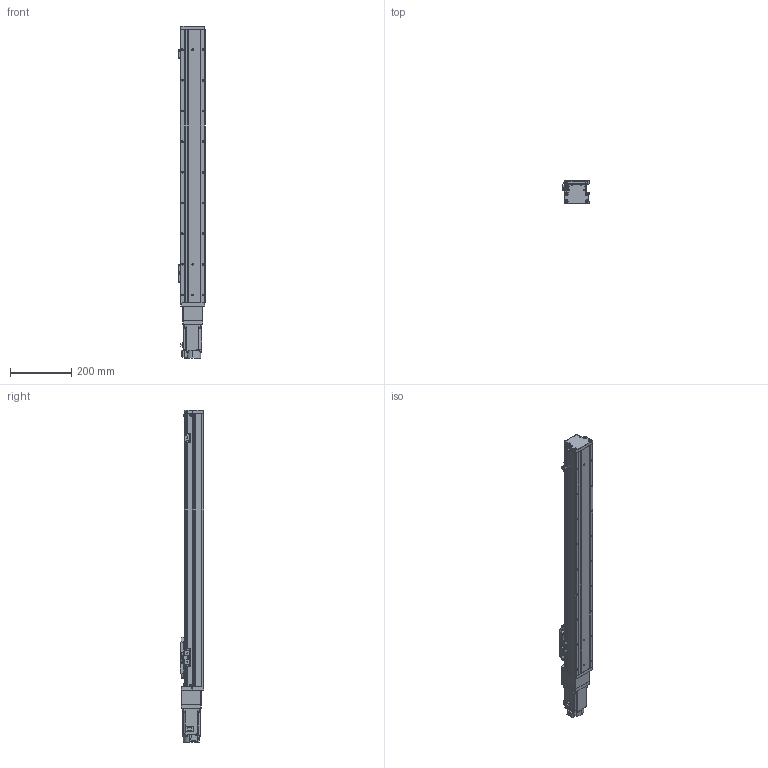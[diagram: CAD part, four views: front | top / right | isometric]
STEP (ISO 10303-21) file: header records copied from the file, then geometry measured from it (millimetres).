
FILE_DESCRIPTION (( 'STEP AP203' ), '1' );
FILE_NAME ('GTH8-700-BC-M20-C4.step', '2022-09-23T00:55:54', ( '微软用户' ), ( '微软中国' ), 'SwSTEP 2.0', 'SolidWorks 2020', '' );
FILE_SCHEMA (( 'CONFIG_CONTROL_DESIGN' ));
Length unit declared in the file: millimetre
Products named in the file (19): GBT 70.3-M3℅6; GBT96.1-2002 3×0.8; GTH80-022; BTH-M3X5X6; GTH80-001_700; GBT 70.1-M3℅6; CTHA86-006-1_CTHA86-006-2; GTH80-003; GBT 70.1-M4×16; CTHA86-013; GTH80-004; GTH80-028; CTHA86-027; GTH80-006; GTH50-024; hg-kn43j_-s100_; GTH80-013; GTH8-700-BC-M20-C4; GTH50-023
Assembly tree (60 placements, depth 2):
  GTH8-700-BC-M20-C4
    GTH80-001_700
    GTH80-003
    GTH80-004
    GTH80-006
    GTH80-013
    GBT 70.3-M3℅6  x6
    GTH80-022
    GBT 70.1-M3℅6  x14
    GBT 70.1-M4×16  x8
    GTH80-028  x2
    GTH50-024  x3
    GTH50-023  x3
    GBT96.1-2002 3×0.8  x6
    BTH-M3X5X6  x8
    CTHA86-006-1_CTHA86-006-2
    CTHA86-013
    CTHA86-027
    hg-kn43j_-s100_
Bounding box: 86.9 x 78 x 1082.7 mm (x, y, z)
Volume: 4662519.3 mm3; surface area: 481246.5 mm2
Topology: 62 solids, 62 shells, 2235 faces, 5140 edges, 3131 vertices
Faces by surface type: plane 1173, cylinder 605, cone 285, torus 162, sphere 8, bspline 2
Entity records: 38964 total; most frequent: CARTESIAN_POINT 6431, DIRECTION 6394, ORIENTED_EDGE 5870, EDGE_CURVE 2935, AXIS2_PLACEMENT_3D 2236, LINE 1922, VECTOR 1922, VERTEX_POINT 1844
